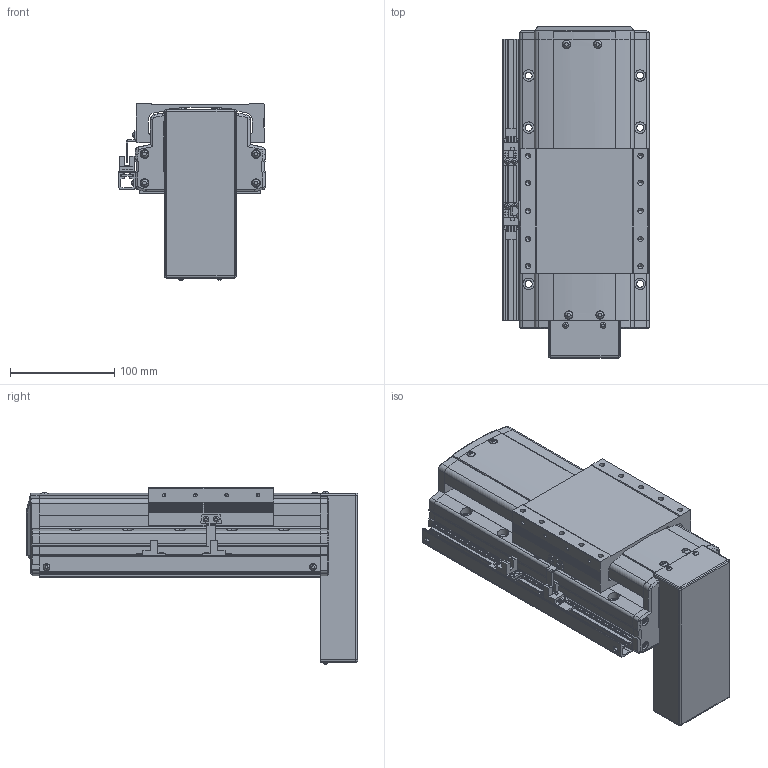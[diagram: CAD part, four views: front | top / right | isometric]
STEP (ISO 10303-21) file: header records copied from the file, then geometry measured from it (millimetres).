
FILE_DESCRIPTION(('STEP AP214'),'1');
FILE_NAME('Z:/Web/3D/PSA125/STP/PSA125-050 (3D)/PSA125ㅁㅁ-050PB+2SL.stp','2014-06-18T08:56:04',(' '),(' '),'Spatial InterOp 3D',' ',' ');
FILE_SCHEMA(('automotive_design'));
Length unit declared in the file: millimetre
Products named in the file (43): 스크루 : Round - M4.0 x 10.0; RRCV-PA120; SLIDE; BASE; FRCV-PA120-1(기준 뿔 제거); RR1500; 스크루 : Round - M4.0 x 6.0; 너트 : Square - M10.0 x 220.7419; 1; 2; 파트105; 스크루 : Round - M3.0 x 6.0; EE-SX674; SBK-SX674-352; M3.0 x 6.0; SRL-16x17-380L; SGD-PA95; 스크루 : Round - M3.0 x 8.0
Bounding box: 141 x 318.6 x 169.06 mm (x, y, z)
Volume: 2983855.8 mm3; surface area: 352370.8 mm2
Topology: 43 solids, 43 shells, 2392 faces, 6335 edges, 4070 vertices
Faces by surface type: plane 1392, cylinder 638, cone 230, sphere 68, torus 33, bspline 31
Entity records: 95626 total; most frequent: CARTESIAN_POINT 15639, DIRECTION 12748, ORIENTED_EDGE 12458, EDGE_CURVE 6229, AXIS2_PLACEMENT_3D 4271, LINE 4206, VECTOR 4206, VERTEX_POINT 4070
